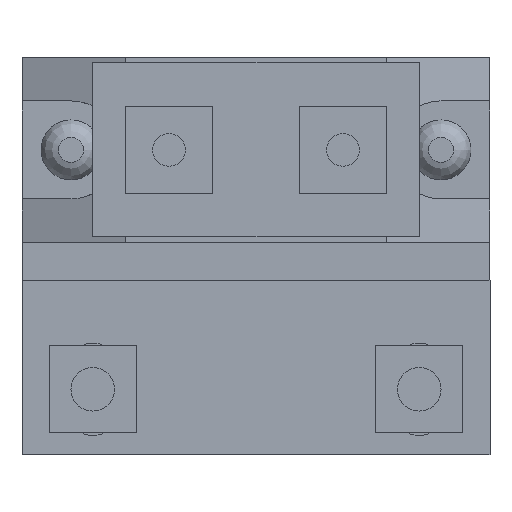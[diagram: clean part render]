
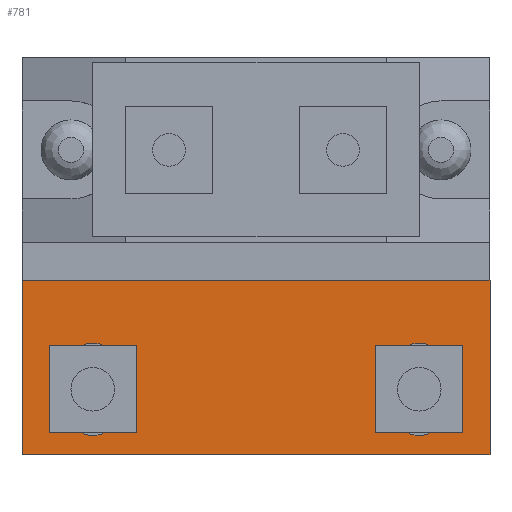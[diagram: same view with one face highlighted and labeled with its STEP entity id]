
A CAD part, front view. The second image highlights one B-rep face of the part: STEP entity #781.
In plain terms, the highlighted planar face has unit normal (0, -1, 0).
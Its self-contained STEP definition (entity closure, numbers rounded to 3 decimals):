
#150=CARTESIAN_POINT('',(17.25,0.,-12.));
#151=VERTEX_POINT('',#150);
#158=CARTESIAN_POINT('',(17.25,0.,-8.));
#159=VERTEX_POINT('',#158);
#160=CARTESIAN_POINT('',(17.25,0.,-8.));
#161=DIRECTION('',(0.0,0.0,-1.0));
#162=VECTOR('',#161,4.0);
#163=LINE('',#160,#162);
#164=EDGE_CURVE('',#159,#151,#163,.T.);
#210=CARTESIAN_POINT('',(12.75,0.,-12.));
#211=VERTEX_POINT('',#210);
#218=CARTESIAN_POINT('',(15.,0.,-12.));
#219=DIRECTION('',(0.0,1.0,0.0));
#220=DIRECTION('',(1.0,0.0,0.0));
#221=AXIS2_PLACEMENT_3D('',#218,#219,#220);
#222=CIRCLE('',#221,2.25);
#223=EDGE_CURVE('',#151,#211,#222,.T.);
#242=CARTESIAN_POINT('',(12.75,0.,-8.));
#243=VERTEX_POINT('',#242);
#250=CARTESIAN_POINT('',(12.75,0.,-12.));
#251=DIRECTION('',(0.0,0.0,1.0));
#252=VECTOR('',#251,4.0);
#253=LINE('',#250,#252);
#254=EDGE_CURVE('',#211,#243,#253,.T.);
#294=CARTESIAN_POINT('',(15.,0.,-8.));
#295=DIRECTION('',(0.0,1.0,0.0));
#296=DIRECTION('',(-1.0,0.0,0.0));
#297=AXIS2_PLACEMENT_3D('',#294,#295,#296);
#298=CIRCLE('',#297,2.25);
#299=EDGE_CURVE('',#243,#159,#298,.T.);
#369=CARTESIAN_POINT('',(-17.25,0.,-8.));
#370=VERTEX_POINT('',#369);
#377=CARTESIAN_POINT('',(-17.25,0.,-12.));
#378=VERTEX_POINT('',#377);
#379=CARTESIAN_POINT('',(-17.25,0.,-12.));
#380=DIRECTION('',(0.0,0.0,1.0));
#381=VECTOR('',#380,4.0);
#382=LINE('',#379,#381);
#383=EDGE_CURVE('',#378,#370,#382,.T.);
#409=CARTESIAN_POINT('',(-12.75,0.,-12.));
#410=VERTEX_POINT('',#409);
#411=CARTESIAN_POINT('',(-15.,0.,-12.));
#412=DIRECTION('',(0.0,1.0,0.0));
#413=DIRECTION('',(-1.0,0.0,0.0));
#414=AXIS2_PLACEMENT_3D('',#411,#412,#413);
#415=CIRCLE('',#414,2.25);
#416=EDGE_CURVE('',#410,#378,#415,.T.);
#441=CARTESIAN_POINT('',(-12.75,0.,-8.));
#442=VERTEX_POINT('',#441);
#443=CARTESIAN_POINT('',(-12.75,0.,-8.));
#444=DIRECTION('',(0.0,0.0,-1.0));
#445=VECTOR('',#444,4.0);
#446=LINE('',#443,#445);
#447=EDGE_CURVE('',#442,#410,#446,.T.);
#471=CARTESIAN_POINT('',(-15.,0.,-8.));
#472=DIRECTION('',(0.0,1.0,0.0));
#473=DIRECTION('',(1.0,0.0,0.0));
#474=AXIS2_PLACEMENT_3D('',#471,#472,#473);
#475=CIRCLE('',#474,2.25);
#476=EDGE_CURVE('',#370,#442,#475,.T.);
#487=CARTESIAN_POINT('',(21.5,0.,0.0));
#488=VERTEX_POINT('',#487);
#497=CARTESIAN_POINT('',(21.5,0.,-16.));
#498=VERTEX_POINT('',#497);
#499=CARTESIAN_POINT('',(21.5,0.,-16.));
#500=DIRECTION('',(0.0,0.0,1.0));
#501=VECTOR('',#500,16.);
#502=LINE('',#499,#501);
#503=EDGE_CURVE('',#498,#488,#502,.T.);
#559=CARTESIAN_POINT('',(-21.5,0.,-16.));
#560=VERTEX_POINT('',#559);
#576=CARTESIAN_POINT('',(-21.5,0.,-16.));
#577=DIRECTION('',(1.0,0.0,0.0));
#578=VECTOR('',#577,43.);
#579=LINE('',#576,#578);
#580=EDGE_CURVE('',#560,#498,#579,.T.);
#734=CARTESIAN_POINT('',(-21.5,0.,0.0));
#735=VERTEX_POINT('',#734);
#742=CARTESIAN_POINT('',(21.5,0.,0.0));
#743=DIRECTION('',(-1.0,0.0,0.0));
#744=VECTOR('',#743,43.);
#745=LINE('',#742,#744);
#746=EDGE_CURVE('',#488,#735,#745,.T.);
#753=CARTESIAN_POINT('',(0.,0.,0.0));
#754=DIRECTION('',(0.0,-1.0,0.0));
#755=DIRECTION('',(1.0,0.0,0.0));
#756=AXIS2_PLACEMENT_3D('',#753,#754,#755);
#757=PLANE('',#756);
#758=CARTESIAN_POINT('',(-21.5,0.,0.0));
#759=DIRECTION('',(0.0,0.0,-1.0));
#760=VECTOR('',#759,16.);
#761=LINE('',#758,#760);
#762=EDGE_CURVE('',#735,#560,#761,.T.);
#763=ORIENTED_EDGE('',*,*,#762,.T.);
#764=ORIENTED_EDGE('',*,*,#580,.T.);
#765=ORIENTED_EDGE('',*,*,#503,.T.);
#766=ORIENTED_EDGE('',*,*,#746,.T.);
#767=EDGE_LOOP('',(#763,#764,#765,#766));
#768=FACE_OUTER_BOUND('',#767,.T.);
#769=ORIENTED_EDGE('',*,*,#164,.T.);
#770=ORIENTED_EDGE('',*,*,#223,.T.);
#771=ORIENTED_EDGE('',*,*,#254,.T.);
#772=ORIENTED_EDGE('',*,*,#299,.T.);
#773=EDGE_LOOP('',(#769,#770,#771,#772));
#774=FACE_BOUND('',#773,.T.);
#775=ORIENTED_EDGE('',*,*,#447,.T.);
#776=ORIENTED_EDGE('',*,*,#416,.T.);
#777=ORIENTED_EDGE('',*,*,#383,.T.);
#778=ORIENTED_EDGE('',*,*,#476,.T.);
#779=EDGE_LOOP('',(#775,#776,#777,#778));
#780=FACE_BOUND('',#779,.T.);
#781=ADVANCED_FACE('',(#768,#774,#780),#757,.T.);
